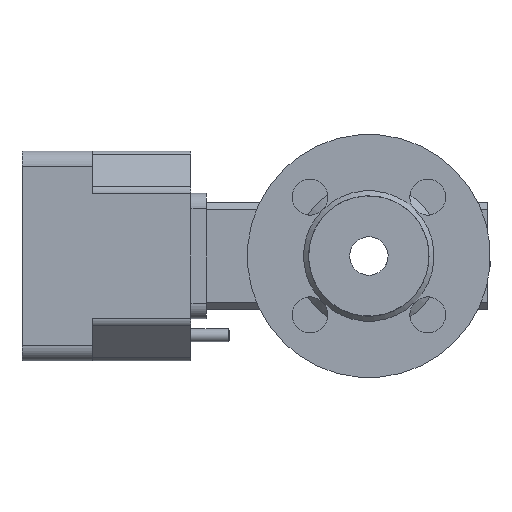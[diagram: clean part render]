
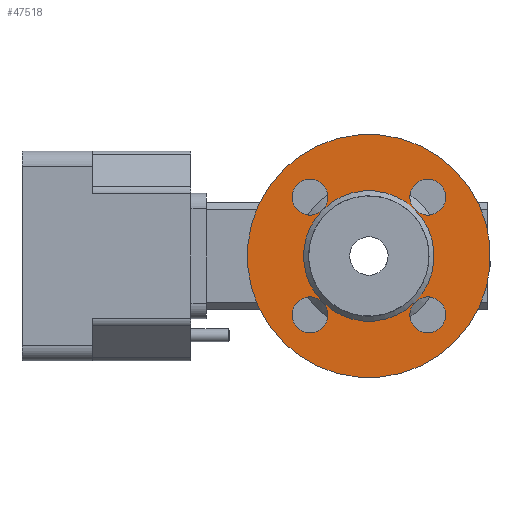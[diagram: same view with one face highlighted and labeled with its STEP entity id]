
A CAD part, left-side view. The second image highlights one B-rep face of the part: STEP entity #47518.
In plain terms, the highlighted planar face has unit normal (-1, 0, 0).
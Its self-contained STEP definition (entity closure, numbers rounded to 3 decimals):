
#2232=FACE_BOUND('',#7435,.T.);
#4702=FACE_OUTER_BOUND('',#7434,.T.);
#7434=EDGE_LOOP('',(#40980,#40981));
#7435=EDGE_LOOP('',(#40982,#40983,#40984,#40985,#40986,#40987,#40988,#40989,
#40990,#40991,#40992,#40993));
#8488=CIRCLE('',#50614,7.);
#8489=CIRCLE('',#50615,7.);
#8490=CIRCLE('',#50617,7.);
#8491=CIRCLE('',#50618,7.);
#8492=CIRCLE('',#50620,7.);
#8493=CIRCLE('',#50621,7.);
#8494=CIRCLE('',#50623,47.5);
#8495=CIRCLE('',#50624,47.5);
#8496=CIRCLE('',#50625,25.5);
#8497=CIRCLE('',#50626,25.5);
#8498=CIRCLE('',#50627,25.5);
#8499=CIRCLE('',#50628,25.5);
#8500=CIRCLE('',#50629,7.);
#8501=CIRCLE('',#50630,7.);
#21594=VERTEX_POINT('',#85035);
#21595=VERTEX_POINT('',#85036);
#21596=VERTEX_POINT('',#85041);
#21597=VERTEX_POINT('',#85042);
#21598=VERTEX_POINT('',#85047);
#21599=VERTEX_POINT('',#85048);
#21600=VERTEX_POINT('',#85053);
#21601=VERTEX_POINT('',#85054);
#21602=VERTEX_POINT('',#85057);
#21603=VERTEX_POINT('',#85062);
#28063=EDGE_CURVE('',#21594,#21595,#8488,.T.);
#28064=EDGE_CURVE('',#21595,#21594,#8489,.T.);
#28066=EDGE_CURVE('',#21596,#21597,#8490,.T.);
#28067=EDGE_CURVE('',#21597,#21596,#8491,.T.);
#28069=EDGE_CURVE('',#21598,#21599,#8492,.T.);
#28070=EDGE_CURVE('',#21599,#21598,#8493,.T.);
#28072=EDGE_CURVE('',#21600,#21601,#8494,.T.);
#28073=EDGE_CURVE('',#21601,#21600,#8495,.T.);
#28074=EDGE_CURVE('',#21602,#21598,#8496,.T.);
#28075=EDGE_CURVE('',#21598,#21596,#8497,.T.);
#28076=EDGE_CURVE('',#21596,#21594,#8498,.T.);
#28077=EDGE_CURVE('',#21594,#21602,#8499,.T.);
#28078=EDGE_CURVE('',#21602,#21603,#8500,.T.);
#28079=EDGE_CURVE('',#21603,#21602,#8501,.T.);
#40980=ORIENTED_EDGE('',*,*,#28072,.F.);
#40981=ORIENTED_EDGE('',*,*,#28073,.F.);
#40982=ORIENTED_EDGE('',*,*,#28074,.T.);
#40983=ORIENTED_EDGE('',*,*,#28069,.T.);
#40984=ORIENTED_EDGE('',*,*,#28070,.T.);
#40985=ORIENTED_EDGE('',*,*,#28075,.T.);
#40986=ORIENTED_EDGE('',*,*,#28066,.T.);
#40987=ORIENTED_EDGE('',*,*,#28067,.T.);
#40988=ORIENTED_EDGE('',*,*,#28076,.T.);
#40989=ORIENTED_EDGE('',*,*,#28063,.T.);
#40990=ORIENTED_EDGE('',*,*,#28064,.T.);
#40991=ORIENTED_EDGE('',*,*,#28077,.T.);
#40992=ORIENTED_EDGE('',*,*,#28078,.T.);
#40993=ORIENTED_EDGE('',*,*,#28079,.T.);
#42662=PLANE('',#50622);
#47518=ADVANCED_FACE('',(#4702,#2232),#42662,.T.);
#50614=AXIS2_PLACEMENT_3D('',#85037,#61173,#61174);
#50615=AXIS2_PLACEMENT_3D('',#85038,#61175,#61176);
#50617=AXIS2_PLACEMENT_3D('',#85043,#61180,#61181);
#50618=AXIS2_PLACEMENT_3D('',#85044,#61182,#61183);
#50620=AXIS2_PLACEMENT_3D('',#85049,#61187,#61188);
#50621=AXIS2_PLACEMENT_3D('',#85050,#61189,#61190);
#50622=AXIS2_PLACEMENT_3D('',#85052,#61192,#61193);
#50623=AXIS2_PLACEMENT_3D('',#85055,#61194,#61195);
#50624=AXIS2_PLACEMENT_3D('',#85056,#61196,#61197);
#50625=AXIS2_PLACEMENT_3D('',#85058,#61198,#61199);
#50626=AXIS2_PLACEMENT_3D('',#85059,#61200,#61201);
#50627=AXIS2_PLACEMENT_3D('',#85060,#61202,#61203);
#50628=AXIS2_PLACEMENT_3D('',#85061,#61204,#61205);
#50629=AXIS2_PLACEMENT_3D('',#85063,#61206,#61207);
#50630=AXIS2_PLACEMENT_3D('',#85064,#61208,#61209);
#61173=DIRECTION('center_axis',(1.,0.,0.));
#61174=DIRECTION('ref_axis',(0.,0.707,-0.707));
#61175=DIRECTION('center_axis',(1.,0.,0.));
#61176=DIRECTION('ref_axis',(0.,0.707,-0.707));
#61180=DIRECTION('center_axis',(1.,0.,0.));
#61181=DIRECTION('ref_axis',(0.,-0.707,-0.707));
#61182=DIRECTION('center_axis',(1.,0.,0.));
#61183=DIRECTION('ref_axis',(0.,-0.707,-0.707));
#61187=DIRECTION('center_axis',(1.,0.,0.));
#61188=DIRECTION('ref_axis',(0.,-0.707,0.707));
#61189=DIRECTION('center_axis',(1.,0.,0.));
#61190=DIRECTION('ref_axis',(0.,-0.707,0.707));
#61192=DIRECTION('center_axis',(-1.,0.,0.));
#61193=DIRECTION('ref_axis',(0.,0.707,-0.707));
#61194=DIRECTION('center_axis',(1.,0.,0.));
#61195=DIRECTION('ref_axis',(0.,-0.707,-0.707));
#61196=DIRECTION('center_axis',(1.,0.,0.));
#61197=DIRECTION('ref_axis',(0.,-0.707,-0.707));
#61198=DIRECTION('center_axis',(1.,0.,0.));
#61199=DIRECTION('ref_axis',(0.,-0.707,-0.707));
#61200=DIRECTION('center_axis',(1.,0.,0.));
#61201=DIRECTION('ref_axis',(0.,-0.707,-0.707));
#61202=DIRECTION('center_axis',(1.,0.,0.));
#61203=DIRECTION('ref_axis',(0.,-0.707,-0.707));
#61204=DIRECTION('center_axis',(1.,0.,0.));
#61205=DIRECTION('ref_axis',(0.,-0.707,-0.707));
#61206=DIRECTION('center_axis',(1.,0.,0.));
#61207=DIRECTION('ref_axis',(0.,0.707,0.707));
#61208=DIRECTION('center_axis',(1.,0.,0.));
#61209=DIRECTION('ref_axis',(0.,0.707,0.707));
#85035=CARTESIAN_POINT('',(-59.,-18.031,-18.031));
#85036=CARTESIAN_POINT('',(-59.,-27.931,-18.031));
#85037=CARTESIAN_POINT('Origin',(-59.,-22.981,-22.981));
#85038=CARTESIAN_POINT('Origin',(-59.,-22.981,-22.981));
#85041=CARTESIAN_POINT('',(-59.,-18.031,18.031));
#85042=CARTESIAN_POINT('',(-59.,-18.031,27.931));
#85043=CARTESIAN_POINT('Origin',(-59.,-22.981,22.981));
#85044=CARTESIAN_POINT('Origin',(-59.,-22.981,22.981));
#85047=CARTESIAN_POINT('',(-59.,18.031,18.031));
#85048=CARTESIAN_POINT('',(-59.,27.931,18.031));
#85049=CARTESIAN_POINT('Origin',(-59.,22.981,22.981));
#85050=CARTESIAN_POINT('Origin',(-59.,22.981,22.981));
#85052=CARTESIAN_POINT('Origin',(-59.,-25.809,-25.809));
#85053=CARTESIAN_POINT('',(-59.,-33.588,-33.588));
#85054=CARTESIAN_POINT('',(-59.,33.588,33.588));
#85055=CARTESIAN_POINT('Origin',(-59.,0.,
0.));
#85056=CARTESIAN_POINT('Origin',(-59.,0.,
0.));
#85057=CARTESIAN_POINT('',(-59.,18.031,-18.031));
#85058=CARTESIAN_POINT('Origin',(-59.,0.,
0.));
#85059=CARTESIAN_POINT('Origin',(-59.,0.,
0.));
#85060=CARTESIAN_POINT('Origin',(-59.,0.,
0.));
#85061=CARTESIAN_POINT('Origin',(-59.,0.,
0.));
#85062=CARTESIAN_POINT('',(-59.,18.031,-27.931));
#85063=CARTESIAN_POINT('Origin',(-59.,22.981,-22.981));
#85064=CARTESIAN_POINT('Origin',(-59.,22.981,-22.981));
